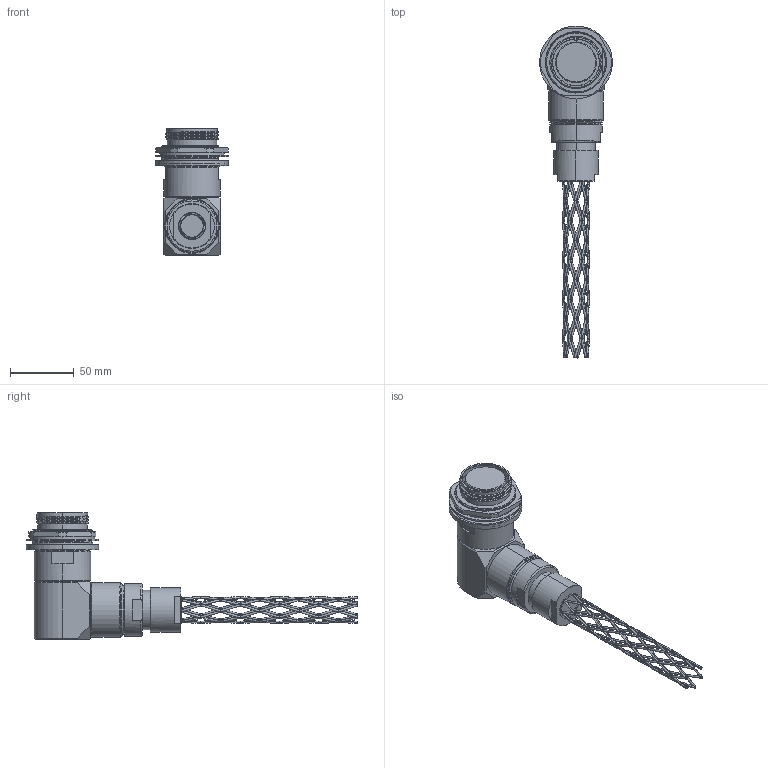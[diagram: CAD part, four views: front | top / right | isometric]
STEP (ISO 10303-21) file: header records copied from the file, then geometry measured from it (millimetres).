
FILE_DESCRIPTION (( 'STEP AP214' ), '1' );
FILE_NAME ('QLINK90-RJTX-25XX-GXXX.STEP', '2025-10-23T14:48:37', ( '' ), ( '' ), 'SwSTEP 2.0', 'SolidWorks 2024', '' );
FILE_SCHEMA (( 'AUTOMOTIVE_DESIGN' ));
Length unit declared in the file: millimetre
Products named in the file (1): QLINK90-RJTX-25XX-GXXX
Bounding box: 56.9 x 259.53 x 99.31 mm (x, y, z)
Volume: 244278 mm3; surface area: 50431.6 mm2
Topology: 2 solids, 4 shells, 513 faces, 1412 edges, 821 vertices
Faces by surface type: bspline 255, cylinder 91, plane 87, cone 57, torus 23
Entity records: 127754 total; most frequent: CARTESIAN_POINT 117682, ORIENTED_EDGE 2824, EDGE_CURVE 1412, DIRECTION 1397, VERTEX_POINT 821, AXIS2_PLACEMENT_3D 581, EDGE_LOOP 543, ADVANCED_FACE 513
